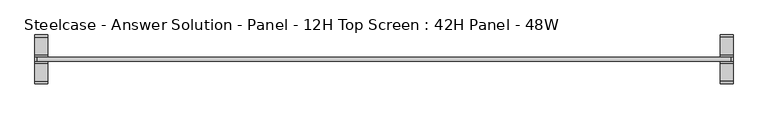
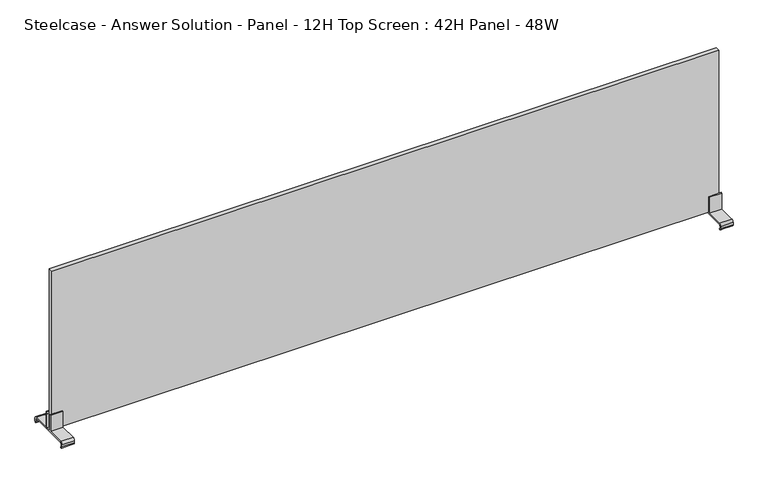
"""IFC4 building model written with IfcOpenShell, lengths in millimetres: furniture geometry, Steelcase - Answer Solution - Panel - 12H Top Screen : 42H Panel - 48W."""

from ifc_helpers import new_model, si_unit, point, frame, frame_2d, origin, place, context, project, spatial, polyline, circle_curve, trimmed, segment, composite_curve, outline, extrude, source, transform, mapped, element, save


def steelcase_answer_solution_panel_12h_top_screen_42h_panel_48w_fe30f8a1(model_context):
    return source(origin(), model_context, "Body", "SweptSolid", [
        extrude(outline(polyline([(605.536, -3.683001), (-605.536, -3.683001), (-605.536, 3.683001), (605.536, 3.683001), (605.536, -3.683001)])), frame((0.0, 0.0, 1075.1819981), z_axis=(0.0, 0.0, 1.0), x_axis=(1.0, 0.0, 0.0)), (0.0, 0.0, 1.0), 304.8),
        extrude(outline(composite_curve([segment(trimmed(circle_curve(frame_2d((38.5445, 1071.245)), 1.905), [point((40.4495, 1071.245))], [point((38.5445, 1073.15))], True, "CARTESIAN"), True, "CONTINUOUS"), segment(polyline([(38.5445, 1073.15), (-38.5445, 1073.15)]), True, "CONTINUOUS"), segment(trimmed(circle_curve(frame_2d((-38.5445, 1071.245)), 1.905), [point((-38.5445, 1073.15))], [point((-40.4495, 1071.245))], True, "CARTESIAN"), True, "CONTINUOUS"), segment(polyline([(-40.4495, 1071.245), (-40.4495, 1066.6341187)]), True, "CONTINUOUS"), segment(trimmed(circle_curve(frame_2d((-38.5445, 1066.6341187)), 1.905), [point((-40.4495, 1066.6341187))], [point((-38.6743328, 1064.7335481))], True, "CARTESIAN"), True, "CONTINUOUS"), segment(polyline([(-38.6743328, 1064.7335481), (-39.2392449, 1063.1535566)]), True, "CONTINUOUS"), segment(trimmed(circle_curve(frame_2d((-38.5459934, 1067.0284569)), 3.9364261), [point((-39.2392449, 1063.1535566))], [point((-42.4824195, 1067.0284569))], False, "CARTESIAN"), True, "CONTINUOUS"), segment(polyline([(-42.4824195, 1067.0284569), (-42.4824195, 1071.2452288)]), True, "CONTINUOUS"), segment(trimmed(circle_curve(frame_2d((-38.5459934, 1071.2452288)), 3.9364261), [point((-42.4824195, 1071.2452288))], [point((-38.5459934, 1075.1816549))], False, "CARTESIAN"), True, "CONTINUOUS"), segment(polyline([(-38.5459934, 1075.1816549), (-6.7310004, 1075.1816549), (-6.7310004, 1106.1699952), (-4.699, 1106.1699952), (-4.699, 1075.1819952), (4.699, 1075.1819952), (4.699, 1106.1700048), (6.7310004, 1106.1700048), (6.7310004, 1075.1816549), (38.5459934, 1075.1816549)]), True, "CONTINUOUS"), segment(trimmed(circle_curve(frame_2d((38.5459934, 1071.2452288)), 3.9364261), [point((38.5459934, 1075.1816549))], [point((42.4824195, 1071.2452288))], False, "CARTESIAN"), True, "CONTINUOUS"), segment(polyline([(42.4824195, 1071.2452288), (42.4824195, 1067.0284569)]), True, "CONTINUOUS"), segment(trimmed(circle_curve(frame_2d((38.5459934, 1067.0284569)), 3.9364261), [point((42.4824195, 1067.0284569))], [point((39.6631716, 1063.2538889))], False, "CARTESIAN"), True, "CONTINUOUS"), segment(polyline([(39.6631716, 1063.2538889), (39.1055128, 1064.8135996)]), True, "CONTINUOUS"), segment(trimmed(circle_curve(frame_2d((38.5445, 1066.6341187)), 1.905), [point((39.1055128, 1064.8135996))], [point((40.4495, 1066.6341187))], True, "CARTESIAN"), True, "CONTINUOUS"), segment(polyline([(40.4495, 1066.6341187), (40.4495, 1071.245)]), True, "CONTINUOUS")], self_intersect=False)), frame((586.994, 0.0, 0.0), z_axis=(1.0, 0.0, 0.0), x_axis=(0.0, 1.0, 0.0)), (0.0, 0.0, 1.0), 22.606),
        extrude(outline(composite_curve([segment(trimmed(circle_curve(frame_2d((38.5445, 1071.245)), 1.905), [point((40.4495, 1071.245))], [point((38.5445, 1073.15))], True, "CARTESIAN"), True, "CONTINUOUS"), segment(polyline([(38.5445, 1073.15), (-38.5445, 1073.15)]), True, "CONTINUOUS"), segment(trimmed(circle_curve(frame_2d((-38.5445, 1071.245)), 1.905), [point((-38.5445, 1073.15))], [point((-40.4495, 1071.245))], True, "CARTESIAN"), True, "CONTINUOUS"), segment(polyline([(-40.4495, 1071.245), (-40.4495, 1066.6341187)]), True, "CONTINUOUS"), segment(trimmed(circle_curve(frame_2d((-38.5445, 1066.6341187)), 1.905), [point((-40.4495, 1066.6341187))], [point((-38.6743328, 1064.7335481))], True, "CARTESIAN"), True, "CONTINUOUS"), segment(polyline([(-38.6743328, 1064.7335481), (-39.2392449, 1063.1535566)]), True, "CONTINUOUS"), segment(trimmed(circle_curve(frame_2d((-38.5459934, 1067.0284569)), 3.9364261), [point((-39.2392449, 1063.1535566))], [point((-42.4824195, 1067.0284569))], False, "CARTESIAN"), True, "CONTINUOUS"), segment(polyline([(-42.4824195, 1067.0284569), (-42.4824195, 1071.2452288)]), True, "CONTINUOUS"), segment(trimmed(circle_curve(frame_2d((-38.5459934, 1071.2452288)), 3.9364261), [point((-42.4824195, 1071.2452288))], [point((-38.5459934, 1075.1816549))], False, "CARTESIAN"), True, "CONTINUOUS"), segment(polyline([(-38.5459934, 1075.1816549), (-6.7310004, 1075.1816549), (-6.7310004, 1106.1699952), (-4.699, 1106.1699952), (-4.699, 1075.1819952), (4.699, 1075.1819952), (4.699, 1106.1700048), (6.7310004, 1106.1700048), (6.7310004, 1075.1816549), (38.5459934, 1075.1816549)]), True, "CONTINUOUS"), segment(trimmed(circle_curve(frame_2d((38.5459934, 1071.2452288)), 3.9364261), [point((38.5459934, 1075.1816549))], [point((42.4824195, 1071.2452288))], False, "CARTESIAN"), True, "CONTINUOUS"), segment(polyline([(42.4824195, 1071.2452288), (42.4824195, 1067.0284569)]), True, "CONTINUOUS"), segment(trimmed(circle_curve(frame_2d((38.5459934, 1067.0284569)), 3.9364261), [point((42.4824195, 1067.0284569))], [point((39.6631716, 1063.2538889))], False, "CARTESIAN"), True, "CONTINUOUS"), segment(polyline([(39.6631716, 1063.2538889), (39.1055128, 1064.8135996)]), True, "CONTINUOUS"), segment(trimmed(circle_curve(frame_2d((38.5445, 1066.6341187)), 1.905), [point((39.1055128, 1064.8135996))], [point((40.4495, 1066.6341187))], True, "CARTESIAN"), True, "CONTINUOUS"), segment(polyline([(40.4495, 1066.6341187), (40.4495, 1071.245)]), True, "CONTINUOUS")], self_intersect=False)), frame((-609.6, 0.0, 0.0), z_axis=(1.0, 0.0, 0.0), x_axis=(0.0, 1.0, 0.0)), (0.0, 0.0, 1.0), 22.606),
    ])


if __name__ == "__main__":
    model = new_model("IFC4")
    model_context = context("Model", 3, world=origin())
    ifc_project = project(units=[si_unit("LENGTHUNIT", "METRE", prefix="MILLI")], contexts=[model_context])
    site = spatial("IfcSite", under=ifc_project)
    building = spatial("IfcBuilding", under=site)
    placement = place(None, origin())
    steelcase_answer_solution_panel_12h_top_screen_42h_panel_48w_shape = steelcase_answer_solution_panel_12h_top_screen_42h_panel_48w_fe30f8a1(model_context)
    element("IfcFurniture", 1, ObjectType="Steelcase - Answer Solution - Panel - 12H Top Screen : 42H Panel - 48W", at=placement, inside=building, context=model_context, shape_type="MappedRepresentation", body=[
        mapped(steelcase_answer_solution_panel_12h_top_screen_42h_panel_48w_shape, transform((0.0, 0.0, 0.0), x_axis=(1.0, 0.0, 0.0), y_axis=(0.0, 1.0, 0.0), z_axis=(0.0, 0.0, 1.0))),
    ])
    save(model, "model.ifc")
